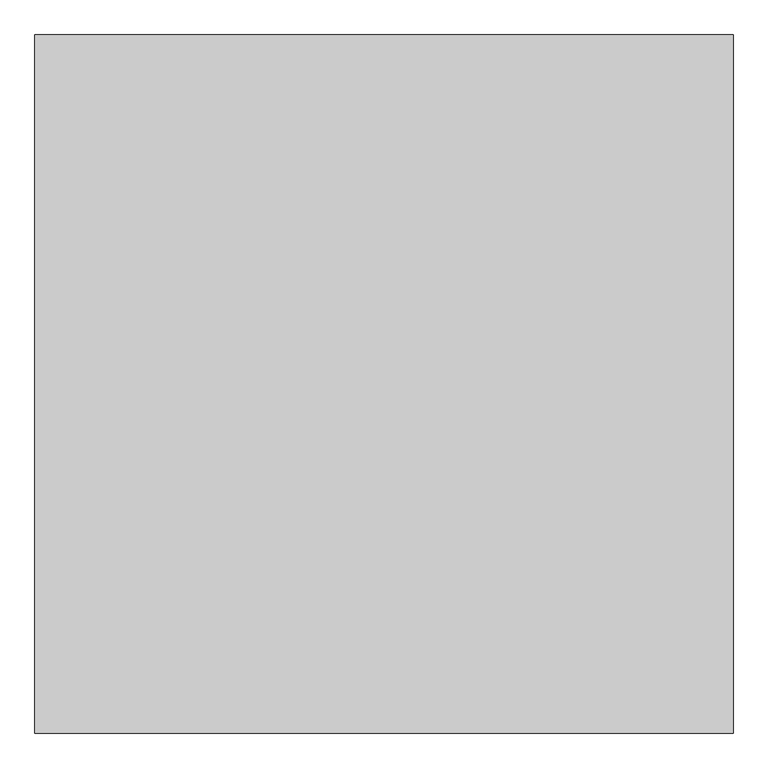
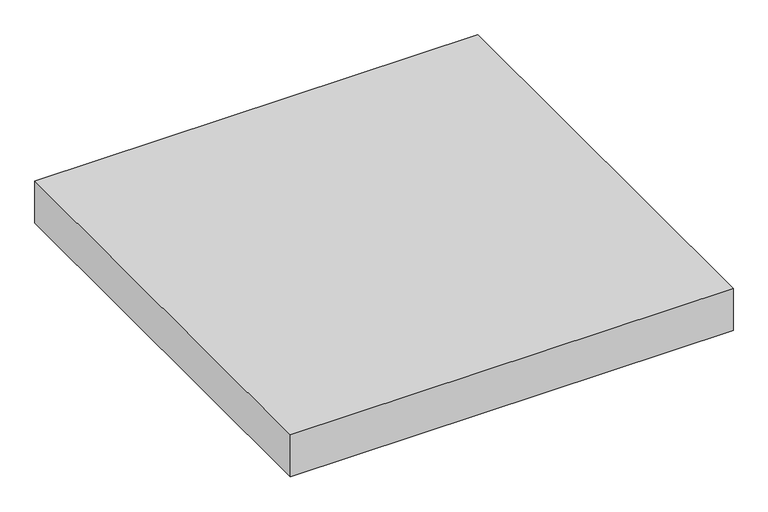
"""IFC4 building model written with IfcOpenShell, lengths in millimetres: proxy geometry, Modelos genéricos 21 : Modelos genéricos 1."""

import ifcopenshell
import ifcopenshell.guid

model = None  # the IFC model being written
_history = None  # IfcOwnerHistory: only IFC2X3 demands one
_inside = {}  # id of a spatial element -> (the spatial element, [elements in it])
_under = {}  # id of a project, library or spatial element -> (it, [spatial elements below it])
_declared = {}  # id of a project -> (the project, [libraries it declares])
_typed = {}  # id of a type object -> (the type object, [elements of that type])
_made_of = {}  # id of a material, layer set ... -> (it, [elements and type objects made of it])


def new_model(schema):
    """Start an empty IFC model of exactly this schema.

    Asked for "IFC4X3", IfcOpenShell would pick the latest addendum, in which some entities
    have other attributes; the version numbers below select the first issue.
    IFC2X3 requires an IfcOwnerHistory on every rooted entity: one is made here for all.
    """
    global model, _history
    if schema == "IFC4X3":
        model = ifcopenshell.file(schema_version=(4, 3, 0, 0))
    else:
        model = ifcopenshell.file(schema=schema)
    _inside.clear()
    _under.clear()
    _declared.clear()
    _typed.clear()
    _made_of.clear()
    _history = None
    if model.schema == "IFC2X3":
        org = make("IfcOrganization", Name="unknown")
        user = make(
            "IfcPersonAndOrganization",
            ThePerson=make("IfcPerson", FamilyName="unknown"),
            TheOrganization=org,
        )
        app = make(
            "IfcApplication",
            ApplicationDeveloper=org,
            Version="unknown",
            ApplicationFullName="unknown",
            ApplicationIdentifier="unknown",
        )
        _history = make(
            "IfcOwnerHistory",
            OwningUser=user,
            OwningApplication=app,
            ChangeAction="ADDED",
            CreationDate=0,
        )
    return model


def make(cls, **values):
    """One entity of the class cls with the attributes given. An attribute that is None is left unset."""
    return model.create_entity(
        cls, **{name: value for name, value in values.items() if value is not None}
    )


def rooted(cls, **values):
    """An entity with a GlobalId (a new one), such as an element, a storey or a relation."""
    return make(cls, GlobalId=ifcopenshell.guid.new(), OwnerHistory=_history, **values)


def si_unit(unit_type, name, prefix=None):
    """IfcSIUnit, for example si_unit("LENGTHUNIT", "METRE", prefix="MILLI")."""
    return make("IfcSIUnit", UnitType=unit_type, Prefix=prefix, Name=name)


def assignment(units):
    """IfcUnitAssignment: the units of a project."""
    return None if units is None else make("IfcUnitAssignment", Units=units)


def point(xyz):
    """IfcCartesianPoint."""
    return None if xyz is None else make("IfcCartesianPoint", Coordinates=xyz)


def direction(xyz):
    """IfcDirection."""
    return None if xyz is None else make("IfcDirection", DirectionRatios=xyz)


def frame(location, z_axis=None, x_axis=None):
    """IfcAxis2Placement3D, a coordinate frame: its origin and axes. An axis left out is left unset."""
    return make(
        "IfcAxis2Placement3D",
        Location=point(location),
        Axis=direction(z_axis),
        RefDirection=direction(x_axis),
    )


def origin():
    """The frame at (0, 0, 0) with its axes left unset."""
    return frame((0.0, 0.0, 0.0))


def origin_with_axes():
    """The frame at (0, 0, 0) with the z axis (0, 0, 1) and the x axis (1, 0, 0) written out."""
    return frame((0.0, 0.0, 0.0), z_axis=(0.0, 0.0, 1.0), x_axis=(1.0, 0.0, 0.0))


def place(relative_to, where):
    """IfcLocalPlacement: puts the frame where relative to a parent placement (None: the world)."""
    return make(
        "IfcLocalPlacement", PlacementRelTo=relative_to, RelativePlacement=where
    )


def context(
    kind, dimensions, precision=None, world=None, true_north=None, identifier=None
):
    """IfcGeometricRepresentationContext, for example the 3D "Model" context."""
    return make(
        "IfcGeometricRepresentationContext",
        ContextIdentifier=identifier,
        ContextType=kind,
        CoordinateSpaceDimension=dimensions,
        Precision=precision,
        WorldCoordinateSystem=world,
        TrueNorth=true_north,
    )


def project(units=None, contexts=None):
    """IfcProject with its units and contexts."""
    return rooted(
        "IfcProject",
        Name="project",
        RepresentationContexts=contexts,
        UnitsInContext=assignment(units),
    )


def spatial(cls, under=None, at=None, **own):
    """A site, building, storey or space (cls), placed at a placement, below another one or the project."""
    s = rooted(cls, ObjectPlacement=at, **own)
    if under is not None:
        _under.setdefault(under.id(), (under, []))[1].append(s)
    return s


def polyline(points):
    """IfcPolyline through the points."""
    return make("IfcPolyline", Points=[point(p) for p in points])


def outline(outer, holes=None, kind="AREA"):
    """IfcArbitraryClosedProfileDef: a profile drawn as a closed curve; with holes, ...WithVoids."""
    if holes is None:
        return make("IfcArbitraryClosedProfileDef", ProfileType=kind, OuterCurve=outer)
    return make(
        "IfcArbitraryProfileDefWithVoids",
        ProfileType=kind,
        OuterCurve=outer,
        InnerCurves=holes,
    )


def extrude(swept, where, along, depth):
    """IfcExtrudedAreaSolid: the profile swept, set in the frame where, extruded along a direction by depth."""
    return make(
        "IfcExtrudedAreaSolid",
        SweptArea=swept,
        Position=where,
        ExtrudedDirection=direction(along),
        Depth=depth,
    )


def shape(context_of_items, identifier, shape_type, items):
    """IfcShapeRepresentation: the items that make up one representation, for example the "Body"."""
    return make(
        "IfcShapeRepresentation",
        ContextOfItems=context_of_items,
        RepresentationIdentifier=identifier,
        RepresentationType=shape_type,
        Items=items,
    )


def source(mapping_origin, context_of_items, identifier, shape_type, items):
    """IfcRepresentationMap: a shape defined once, which mapped items show again and again."""
    return make(
        "IfcRepresentationMap",
        MappingOrigin=mapping_origin,
        MappedRepresentation=shape(context_of_items, identifier, shape_type, items),
    )


def transform(
    local_origin,
    x_axis=None,
    y_axis=None,
    z_axis=None,
    scale=None,
    scale2=None,
    scale3=None,
    uniform=True,
):
    """IfcCartesianTransformationOperator3D, or its non-uniform kind. x_axis, y_axis, z_axis: its Axis1, 2, 3."""
    if uniform:
        return make(
            "IfcCartesianTransformationOperator3D",
            Axis1=direction(x_axis),
            Axis2=direction(y_axis),
            LocalOrigin=point(local_origin),
            Scale=scale,
            Axis3=direction(z_axis),
        )
    return make(
        "IfcCartesianTransformationOperator3DnonUniform",
        Axis1=direction(x_axis),
        Axis2=direction(y_axis),
        LocalOrigin=point(local_origin),
        Scale=scale,
        Axis3=direction(z_axis),
        Scale2=scale2,
        Scale3=scale3,
    )


def mapped(mapping_source, mapping_target):
    """IfcMappedItem: shows the shape of a source again, moved by a transform."""
    return make(
        "IfcMappedItem", MappingSource=mapping_source, MappingTarget=mapping_target
    )


def made_of(thing, what):
    """Note that an element or type object is made of a material, layer set ...; save() writes the relation."""
    if what is not None:
        _made_of.setdefault(what.id(), (what, []))[1].append(thing)
    return thing


def element(
    cls,
    number,
    at=None,
    inside=None,
    cuts=None,
    type_object=None,
    material=None,
    context=None,
    identifier="Body",
    shape_type=None,
    held_by="IfcProductDefinitionShape",
    body=None,
    shapes=None,
    **own,
):
    """One element of the class cls, such as IfcWall. Its Tag is "e" and its number.

    at: its placement. inside: the storey or other place that contains it. cuts: it is an
    opening in that element (IfcRelVoidsElement). A single representation is given by context,
    identifier, shape_type and body (its items); several are given by shapes. held_by: the class
    of the entity that holds the representations. save() writes the other relations.
    """
    e = rooted(cls, Tag="e%d" % number, ObjectPlacement=at, **own)
    if body is not None:
        shapes = [shape(context, identifier, shape_type, body)]
    if shapes is not None:
        e.Representation = make(held_by, Representations=shapes)
    if inside is not None:
        _inside.setdefault(inside.id(), (inside, []))[1].append(e)
    if cuts is not None:
        rooted(
            "IfcRelVoidsElement", RelatingBuildingElement=cuts, RelatedOpeningElement=e
        )
    if type_object is not None:
        _typed.setdefault(type_object.id(), (type_object, []))[1].append(e)
    return made_of(e, material)


def aggregate(whole, parts):
    """IfcRelAggregates: a whole, such as a stair, and the parts it consists of."""
    return rooted("IfcRelAggregates", RelatingObject=whole, RelatedObjects=parts)


def save(model, path):
    """Write the relations noted so far, then the file.

    IfcRelAggregates (storeys below a building ...), IfcRelContainedInSpatialStructure (elements
    in a storey), IfcRelDefinesByType, IfcRelAssociatesMaterial and IfcRelDeclares: one each for
    every whole, place, type object, material and project.
    """
    for whole, parts in _under.values():
        aggregate(whole, parts)
    for where, things in _inside.values():
        rooted(
            "IfcRelContainedInSpatialStructure",
            RelatedElements=things,
            RelatingStructure=where,
        )
    for kind, things in _typed.values():
        rooted("IfcRelDefinesByType", RelatedObjects=things, RelatingType=kind)
    for what, things in _made_of.values():
        rooted("IfcRelAssociatesMaterial", RelatedObjects=things, RelatingMaterial=what)
    for by, libraries in _declared.values():
        rooted("IfcRelDeclares", RelatingContext=by, RelatedDefinitions=libraries)
    model.write(path)


def generic_models_07bc0a28(model_context):
    return source(origin(), model_context, "Body", "SweptSolid", [
        extrude(outline(polyline([(-3422.6026359, -11045.712814), (-3422.6026359, -12545.712814), (-4922.6026359, -12545.712814), (-4922.6026359, -11045.712814), (-3422.6026359, -11045.712814)])), origin_with_axes(), (0.0, 0.0, 1.0), 150.0),
    ])


if __name__ == "__main__":
    model = new_model("IFC4")
    model_context = context("Model", 3, world=origin())
    ifc_project = project(units=[si_unit("LENGTHUNIT", "METRE", prefix="MILLI")], contexts=[model_context])
    site = spatial("IfcSite", under=ifc_project)
    building = spatial("IfcBuilding", under=site)
    placement = place(None, origin())
    generic_models_shape = generic_models_07bc0a28(model_context)
    element("IfcBuildingElementProxy", 1, Name="Modelos genéricos 21 : Modelos genéricos 1", ObjectType="Modelos genéricos 21 : Modelos genéricos 1", at=placement, inside=building, context=model_context, shape_type="MappedRepresentation", body=[
        mapped(generic_models_shape, transform((0.0, 0.0, 0.0), x_axis=(1.0, 0.0, 0.0), y_axis=(0.0, 1.0, 0.0), z_axis=(0.0, 0.0, 1.0))),
    ])
    save(model, "model.ifc")
